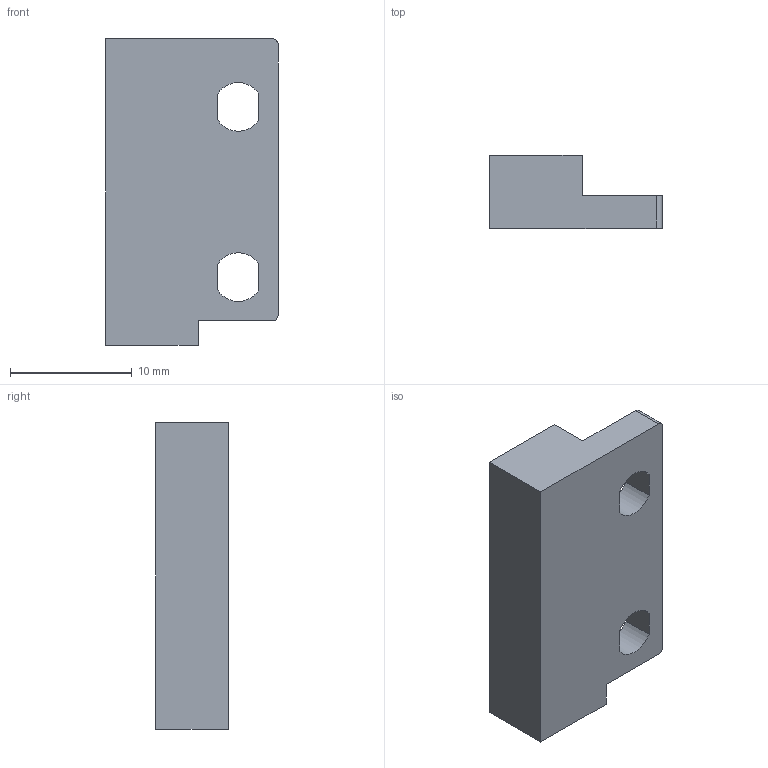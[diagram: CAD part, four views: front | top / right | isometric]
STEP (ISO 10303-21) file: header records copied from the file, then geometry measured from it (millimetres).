
FILE_DESCRIPTION (( 'STEP AP203' ), '1' );
FILE_NAME ('SM1000.STEP', '2019-09-12T17:05:30', ( '' ), ( '' ), 'SwSTEP 2.0', 'SolidWorks 2012', '' );
FILE_SCHEMA (( 'CONFIG_CONTROL_DESIGN' ));
Length unit declared in the file: millimetre
Products named in the file (1): SM1000
Bounding box: 14.2 x 6 x 25.2 mm (x, y, z)
Volume: 1499 mm3; surface area: 1137 mm2
Topology: 1 solids, 1 shells, 21 faces, 57 edges, 38 vertices
Faces by surface type: plane 13, cylinder 8
Entity records: 752 total; most frequent: DIRECTION 117, CARTESIAN_POINT 117, ORIENTED_EDGE 114, EDGE_CURVE 57, LINE 41, VECTOR 41, VERTEX_POINT 38, AXIS2_PLACEMENT_3D 38
